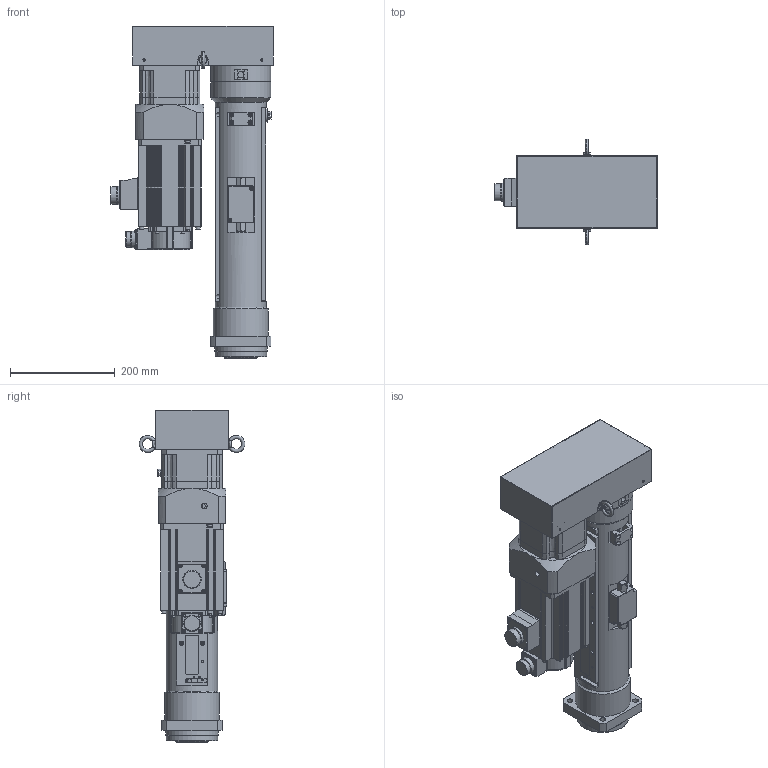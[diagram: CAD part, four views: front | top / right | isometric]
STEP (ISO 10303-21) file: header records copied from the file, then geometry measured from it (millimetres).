
FILE_DESCRIPTION( ('This file contains a STEP AP42 implementation' ,'as created by ZW3D STEP Interface translator.') ,'2;1' );
FILE_NAME( 'OACIS-DC-P030-300-200-A6_ASM_20.01.stp' ,'25 3 8. 94059', (''), ('ZWCAD Software Co.'), 'Version 1.0', 'ZW3D to STEP translator', '' );
FILE_SCHEMA(('AUTOMOTIVE_DESIGN { 1 0 10303 214 1 1 1 1 }'));
Length unit declared in the file: millimetre
Products named in the file (2): 0; OACIS-DC-P030-300-200-A6_ASM_20.01
Bounding box: 311 x 202.6 x 635 mm (x, y, z)
Volume: 5757848.6 mm3; surface area: 1279829.6 mm2
Topology: 17 solids, 35 shells, 1761 faces, 4412 edges, 2863 vertices
Faces by surface type: cylinder 730, plane 687, cone 159, bspline 118, torus 46, sphere 21
Full cylindrical faces by diameter (mm): 1.6 x8, 2.459 x1, 3.3 x116, 4.2 x4, 4.3 x30, 4.5 x4, 5 x16, 5.5 x2, 5.6 x5, 6.8 x42, 7 x4, 8 x38, 8.4 x8, 8.5 x25, 9 x4, 9.5 x2, 10 x8, 11 x4, 12 x1, 15 x8, 15.5 x2, 16.5 x1, 18 x2, 22 x1, 25.4 x2, 26 x1, 27 x1, 29.75 x1, 31.75 x1, 32.984 x1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
Entity records: 58074 total; most frequent: CARTESIAN_POINT 14038, DIRECTION 8834, ORIENTED_EDGE 8572, EDGE_CURVE 4304, AXIS2_PLACEMENT_3D 3279, VERTEX_POINT 2800, VECTOR 2276, LINE 2276
